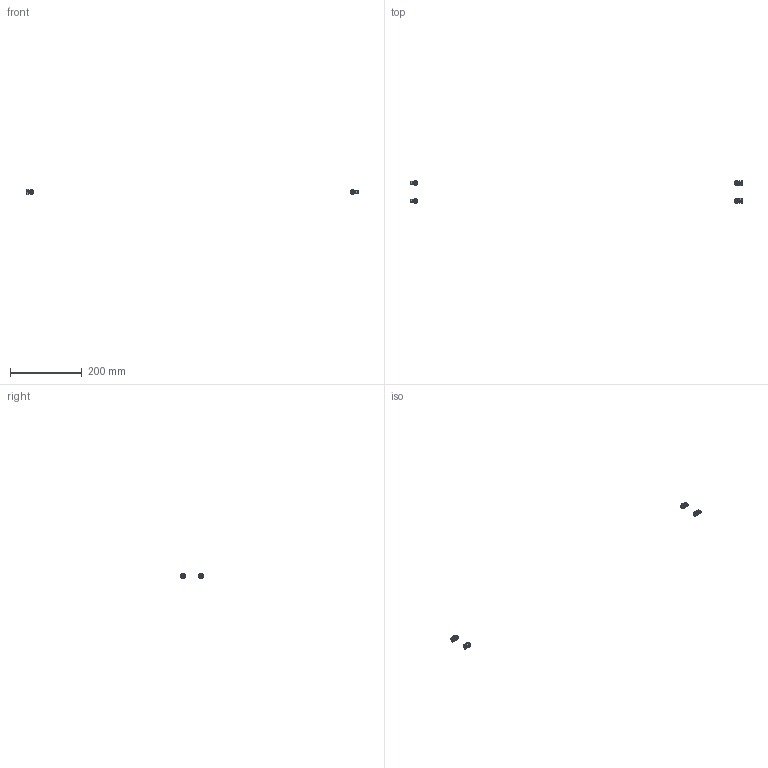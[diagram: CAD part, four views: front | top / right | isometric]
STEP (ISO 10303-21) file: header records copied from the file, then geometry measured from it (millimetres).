
FILE_DESCRIPTION(('Open CASCADE Model'),'2;1');
FILE_NAME('Open CASCADE Shape Model','2025-02-21T17:49:33',('Author'),( 'Open CASCADE'),'Open CASCADE STEP processor 7.8','Open CASCADE 7.8' ,'Unknown');
FILE_SCHEMA(('AUTOMOTIVE_DESIGN { 1 0 10303 214 1 1 1 1 }'));
Length unit declared in the file: millimetre
Products named in the file (4): Compound1; Solid1; Solid2; Solid3
Assembly tree (9 placements, depth 2):
  Compound1
    Solid1
    Solid2  x4
    Solid3  x4
Bounding box: 927.6 x 64.17 x 14.2 mm (x, y, z)
Volume: 5213.8 mm3; surface area: 7989 mm2
Topology: 12 solids, 12 shells, 748 faces, 1928 edges, 1196 vertices
Faces by surface type: plane 324, bspline 168, cylinder 156, torus 56, cone 40, sphere 4
Full cylindrical faces by diameter (mm): 6 x4, 6.5 x4, 8.3 x4, 12 x4
Entity records: 9172 total; most frequent: CARTESIAN_POINT 4872, ORIENTED_EDGE 962, DIRECTION 764, EDGE_CURVE 481, VERTEX_POINT 299, AXIS2_PLACEMENT_3D 282, LINE 200, VECTOR 200
